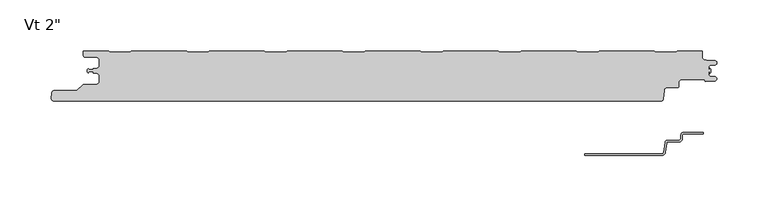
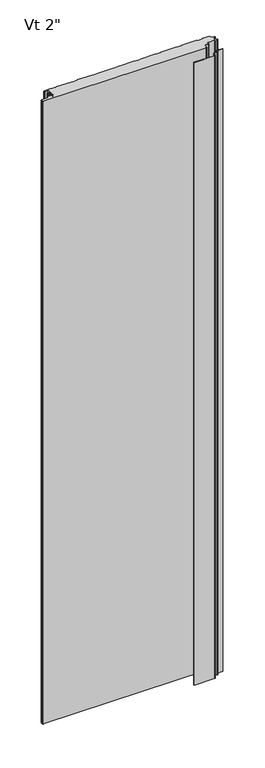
"""IFC4 building model written with IfcOpenShell, lengths in millimetres: plate geometry."""

from ifc_helpers import new_model, si_unit, frame, origin, place, context, project, spatial, polyline, circle_curve, source, transform, mapped, element, save
from ifc_brep_helpers import plane_surface, cylinder_surface, revolved_surface, advanced_brep


def plate_af5c8cf8(model_context):
    return source(origin(), model_context, "Body", "AdvancedBrep", [
        advanced_brep(
        [(278.4543181, -80.5008679, 0.0), (297.1995181, -80.5008679, 0.0), (297.1995181, -82.0248679, 0.0), (278.4543181, -82.0248679, 0.0), (276.9303181, -83.5488679, 0.0), (276.9303181, -86.6476679, 0.0), (273.4759181, -90.1020679, 0.0), (262.2633607, -90.1020679, 0.0), (261.5042604, -90.7976552, 0.0), (260.3094328, -100.3416507, 0.0), (257.2730313, -103.124, 0.0), (181.7057181, -103.1360323, 0.0), (181.7057181, -101.6, 0.0), (257.2730313, -101.6, 0.0), (258.7912321, -100.2088254, 0.0), (259.9860597, -90.6648299, 0.0), (262.2633607, -88.5780679, 0.0), (273.4759181, -88.5780679, 0.0), (275.4063181, -86.6476679, 0.0), (275.4063181, -83.5488679, 0.0), (278.4543181, -80.5008679, 2400.0), (275.4063181, -83.5488679, 2400.0), (275.4063181, -86.6476679, 2400.0), (273.4759181, -88.5780679, 2400.0), (262.2633607, -88.5780679, 2400.0), (259.9860597, -90.6648299, 2400.0), (258.7912321, -100.2088254, 2400.0), (257.2730313, -101.6, 2400.0), (181.7057181, -101.6, 2400.0), (181.7057181, -103.1360323, 2400.0), (257.2730313, -103.1360323, 2400.0), (260.3094328, -100.3416507, 2400.0), (261.5042604, -90.7976552, 2400.0), (262.2633607, -90.1020679, 2400.0), (273.4759181, -90.1020679, 2400.0), (276.9303181, -86.6476679, 2400.0), (276.9303181, -83.5488679, 2400.0), (278.4543181, -82.0248679, 2400.0), (297.1995181, -82.0248679, 2400.0), (297.1995181, -80.5008679, 2400.0)],
        [
            (0, 1),
            (1, 2),
            (2, 3),
            (3, 4, circle_curve(frame((278.4543181, -83.5488679, 0.0), z_axis=(0.0, 0.0, 1.0), x_axis=(0.0, 1.0, 0.0)), 1.524)),
            (4, 5),
            (5, 6, circle_curve(frame((273.4759181, -86.6476679, 0.0), z_axis=(0.0, 0.0, -1.0), x_axis=(0.0, 1.0, 0.0)), 3.4544)),
            (6, 7),
            (7, 8, circle_curve(frame((262.2633607, -90.8640679, 0.0), z_axis=(0.0, 0.0, 1.0), x_axis=(0.0, 1.0, 0.0)), 0.762)),
            (8, 9),
            (9, 10, circle_curve(frame((257.2730313, -100.076, 0.0), z_axis=(0.0, 0.0, -1.0), x_axis=(0.0, 1.0, 0.0)), 3.048)),
            (10, 11),
            (11, 12),
            (12, 13),
            (13, 14, circle_curve(frame((257.2730313, -100.076, 0.0), z_axis=(0.0, 0.0, 1.0), x_axis=(0.0, 1.0, 0.0)), 1.524)),
            (14, 15),
            (15, 16, circle_curve(frame((262.2633607, -90.8640679, 0.0), z_axis=(0.0, 0.0, -1.0), x_axis=(0.0, 1.0, 0.0)), 2.286)),
            (16, 17),
            (17, 18, circle_curve(frame((273.4759181, -86.6476679, 0.0), z_axis=(0.0, 0.0, 1.0), x_axis=(0.0, 1.0, 0.0)), 1.9304)),
            (18, 19),
            (19, 0, circle_curve(frame((278.4543181, -83.5488679, 0.0), z_axis=(0.0, 0.0, -1.0), x_axis=(0.0, 1.0, 0.0)), 3.048)),
            (20, 21, circle_curve(frame((278.4543181, -83.5488679, 2400.0), z_axis=(0.0, 0.0, 1.0), x_axis=(0.0, 1.0, 0.0)), 3.048)),
            (21, 22),
            (22, 23, circle_curve(frame((273.4759181, -86.6476679, 2400.0), z_axis=(0.0, 0.0, -1.0), x_axis=(0.0, 1.0, 0.0)), 1.9304)),
            (23, 24),
            (24, 25, circle_curve(frame((262.2633607, -90.8640679, 2400.0), z_axis=(0.0, 0.0, 1.0), x_axis=(0.0, 1.0, 0.0)), 2.286)),
            (25, 26),
            (26, 27, circle_curve(frame((257.2730313, -100.076, 2400.0), z_axis=(0.0, 0.0, -1.0), x_axis=(0.0, 1.0, 0.0)), 1.524)),
            (27, 28),
            (28, 29),
            (29, 30),
            (30, 31, circle_curve(frame((257.2730313, -100.076, 2400.0), z_axis=(0.0, 0.0, 1.0), x_axis=(0.0, 1.0, 0.0)), 3.048)),
            (31, 32),
            (32, 33, circle_curve(frame((262.2633607, -90.8640679, 2400.0), z_axis=(0.0, 0.0, -1.0), x_axis=(0.0, 1.0, 0.0)), 0.762)),
            (33, 34),
            (34, 35, circle_curve(frame((273.4759181, -86.6476679, 2400.0), z_axis=(0.0, 0.0, 1.0), x_axis=(0.0, 1.0, 0.0)), 3.4544)),
            (35, 36),
            (36, 37, circle_curve(frame((278.4543181, -83.5488679, 2400.0), z_axis=(0.0, 0.0, -1.0), x_axis=(0.0, 1.0, 0.0)), 1.524)),
            (37, 38),
            (38, 39),
            (39, 20),
            (2, 38),
            (37, 3),
            (15, 25),
            (24, 16),
            (7, 33),
            (32, 8),
            (5, 35),
            (34, 6),
            (1, 39),
            (36, 4),
            (9, 31),
            (30, 10),
            (13, 27),
            (26, 14),
            (0, 20),
            (12, 28),
            (29, 11),
            (23, 17),
            (18, 22),
            (21, 19),
        ],
        [
            plane_surface(frame((297.1995181, -101.6, 0.0), z_axis=(0.0, 0.0, -1.0), x_axis=(-1.0, 0.0, 0.0))),
            plane_surface(frame((297.1995181, -101.6, 2400.0), z_axis=(0.0, 0.0, 1.0), x_axis=(-1.0, 0.0, 0.0))),
            plane_surface(frame((278.4543181, -82.0248679, 0.0), z_axis=(0.0, -1.0, 0.0), x_axis=(0.0, 0.0, 1.0))),
            cylinder_surface(frame((262.2633607, -90.8640679, 0.0), z_axis=(0.0, 0.0, -1.0), x_axis=(0.0, 1.0, 0.0)), 2.286),
            revolved_surface(polyline([(262.2633607, -90.1020679, 2400.0), (262.2633607, -90.1020679, 0.0)]), (262.2633607, -90.8640679, 0.0), (0.0, 0.0, 1.0)),
            cylinder_surface(frame((273.4759181, -86.6476679, 0.0), z_axis=(0.0, 0.0, -1.0), x_axis=(0.0, 1.0, 0.0)), 3.4544),
            plane_surface(frame((297.1995181, -82.0248679, 0.0), z_axis=(1.0, 0.0, 0.0), x_axis=(0.0, 0.0, 1.0))),
            revolved_surface(polyline([(278.4543181, -82.0248679, 2400.0), (278.4543181, -82.0248679, 0.0)]), (278.4543181, -83.5488679, 0.0), (0.0, 0.0, 1.0)),
            cylinder_surface(frame((257.2730313, -100.076, 0.0), z_axis=(0.0, 0.0, -1.0), x_axis=(0.0, 1.0, 0.0)), 3.048),
            revolved_surface(polyline([(257.2730313, -98.55199999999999, 2400.0), (257.2730313, -98.55199999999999, 0.0)]), (257.2730313, -100.076, 0.0), (0.0, 0.0, 1.0)),
            plane_surface(frame((297.1995181, -80.5008679, 0.0), z_axis=(0.0, 1.0, 0.0), x_axis=(0.0, 0.0, 1.0))),
            plane_surface(frame((259.9860597, -90.6648299, 0.0), z_axis=(-0.992254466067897, 0.12422187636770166, 0.0), x_axis=(0.0, 0.0, 1.0))),
            plane_surface(frame((257.2730313, -101.6, 0.0), z_axis=(0.0, 1.0, 0.0), x_axis=(0.0, 0.0, 1.0))),
            plane_surface(frame((260.3094328, -100.3416507, 0.0), z_axis=(0.9922544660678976, -0.12422187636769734, 0.0), x_axis=(0.0, 0.0, 1.0))),
            plane_surface(frame((276.9303181, -86.6476679, 0.0), z_axis=(1.0, 0.0, 0.0), x_axis=(0.0, 0.0, 1.0))),
            plane_surface(frame((181.7057181, -103.1360323, 0.0), z_axis=(0.0, -1.0, 0.0), x_axis=(0.0, 0.0, 1.0))),
            plane_surface(frame((181.7057181, -101.6, 0.0), z_axis=(-1.0, 0.0, 0.0), x_axis=(0.0, 0.0, 1.0))),
            plane_surface(frame((273.4759181, -88.5780679, 0.0), z_axis=(0.0, 1.0, 0.0), x_axis=(0.0, 0.0, 1.0))),
            plane_surface(frame((275.4063181, -83.5488679, 0.0), z_axis=(-1.0, 0.0, 0.0), x_axis=(0.0, 0.0, 1.0))),
            plane_surface(frame((262.2633607, -90.1020679, 0.0), z_axis=(0.0, -1.0, 0.0), x_axis=(0.0, 0.0, 1.0))),
            revolved_surface(polyline([(273.4759181, -84.7172679, 2400.0), (273.4759181, -84.7172679, 0.0)]), (273.4759181, -86.6476679, 0.0), (0.0, 0.0, 1.0)),
            cylinder_surface(frame((278.4543181, -83.5488679, 0.0), z_axis=(0.0, 0.0, -1.0), x_axis=(0.0, 1.0, 0.0)), 3.048),
        ],
        [
            (0, [[1, 2, 3, 4, 5, 6, 7, 8, 9, 10, 11, 12, 13, 14, 15, 16, 17, 18, 19, 20]]),
            (1, [[21, 22, 23, 24, 25, 26, 27, 28, 29, 30, 31, 32, 33, 34, 35, 36, 37, 38, 39, 40]]),
            (2, [[41, -38, 42, -3]]),
            (3, [[43, -25, 44, -16]]),
            (4, [[45, -33, 46, -8]]),
            (5, [[47, -35, 48, -6]]),
            (6, [[49, -39, -41, -2]]),
            (7, [[-42, -37, 50, -4]]),
            (8, [[51, -31, 52, -10]]),
            (9, [[53, -27, 54, -14]]),
            (10, [[55, -40, -49, -1]]),
            (11, [[-54, -26, -43, -15]]),
            (12, [[56, -28, -53, -13]]),
            (13, [[-46, -32, -51, -9]]),
            (14, [[-50, -36, -47, -5]]),
            (15, [[-52, -30, 57, -11]]),
            (16, [[-57, -29, -56, -12]]),
            (17, [[-44, -24, 58, -17]]),
            (18, [[59, -22, 60, -19]]),
            (19, [[-48, -34, -45, -7]]),
            (20, [[-58, -23, -59, -18]]),
            (21, [[-60, -21, -55, -20]]),
        ],
    ),
        advanced_brep(
        [(-303.7683001, -22.470875, 2400.0), (-302.5671761, -21.3014003, 2400.0), (-298.8087827, -21.3014003, 2400.0), (-298.8087827, -22.6998791, 2400.0), (-296.1096717, -22.6998791, 2400.0), (-292.7596764, -26.0498744, 2400.0), (-292.7596764, -30.4498656, 2400.0), (-296.1096717, -33.7998609, 2400.0), (-307.9205608, -33.7998609, 2400.0), (-309.1226385, -34.2977778, 2400.0), (-314.6247096, -39.7998489, 2400.0), (-336.7198392, -39.7998489, 2400.0), (-339.3765709, -42.0184509, 2400.0), (-339.8125699, -47.0002718, 2400.0), (-337.2521176, -49.7945967, 2400.0), (256.315622, -49.8, 2400.0), (258.2669057, -48.0149259, 2400.0), (259.021161, -39.5539491, 2400.0), (262.1653654, -36.7906462, 2400.0), (272.2583308, -36.7906462, 2400.0), (273.2097394, -35.8392375, 2400.0), (273.2097394, -32.6955822, 2400.0), (277.2091924, -28.6961293, 2400.0), (298.3895515, -28.6961293, 2400.0), (299.5334028, -30.676977, 2400.0), (308.506811, -30.3217167, 2400.0), (308.5037148, -26.1211391, 2400.0), (304.4977997, -25.8767242, 2400.0), (302.7686884, -24.0819116, 2400.0), (302.7686884, -21.297365, 2400.0), (303.7686884, -21.297365, 2400.0), (303.7686884, -22.884865, 2400.0), (304.8, -21.8535534, 2400.0), (304.8, -18.6247968, 2400.0), (303.7686884, -17.5934852, 2400.0), (303.7686884, -19.0078731, 2400.0), (302.7686884, -19.0078731, 2400.0), (302.7686884, -16.6806905, 2400.0), (304.4513685, -14.9319872, 2400.0), (308.5921924, -14.7123265, 2400.0), (308.5931719, -10.4109885, 2400.0), (300.1016499, -10.0037808, 2400.0), (296.2787013, -6.008945, 2400.0), (296.2787013, -1.0063443, 2400.0), (271.7789439, -1.0063443, 2400.0), (270.3933109, -2.206575, 2400.0), (251.0181446, -2.206575, 2400.0), (249.6325117, -1.0063443, 2400.0), (195.5790963, -1.0063443, 2400.0), (194.1934633, -2.206575, 2400.0), (174.818297, -2.206575, 2400.0), (173.4326641, -1.0063443, 2400.0), (119.3792487, -1.0063443, 2400.0), (117.9936157, -2.206575, 2400.0), (98.6184494, -2.206575, 2400.0), (97.2328165, -1.0063443, 2400.0), (43.1794011, -1.0063443, 2400.0), (41.7937681, -2.206575, 2400.0), (22.4186018, -2.206575, 2400.0), (21.0329689, -1.0063443, 2400.0), (-33.0204465, -1.0063443, 2400.0), (-34.4060795, -2.206575, 2400.0), (-53.7812458, -2.206575, 2400.0), (-55.1668787, -1.0063443, 2400.0), (-109.2202941, -1.0063443, 2400.0), (-110.6059271, -2.206575, 2400.0), (-129.9810934, -2.206575, 2400.0), (-131.3667263, -1.0063443, 2400.0), (-185.4201417, -1.0063443, 2400.0), (-186.8057747, -2.206575, 2400.0), (-206.180941, -2.206575, 2400.0), (-207.5665739, -1.0063443, 2400.0), (-261.6199893, -1.0063443, 2400.0), (-263.0056223, -2.206575, 2400.0), (-282.3807886, -2.206575, 2400.0), (-283.7664215, -1.0063443, 2400.0), (-308.2662506, -1.0063443, 2400.0), (-308.2662506, -5.2378832, 2400.0), (-306.4962564, -7.0078774, 2400.0), (-296.0762778, -7.0078774, 2400.0), (-292.776282, -10.3078733, 2400.0), (-292.776282, -14.7078645, 2400.0), (-296.0762777, -18.0078602, 2400.0), (-298.7684875, -18.0078602, 2400.0), (-298.7684875, -19.0078547, 2400.0), (-302.7686911, -19.0078547, 2400.0), (-303.7686883, -18.0078635, 2400.0), (-304.8, -19.0391752, 2400.0), (-304.8, -21.4391751, 2400.0), (-303.7683001, -22.470875, 0.0), (-304.8, -21.4391751, 0.0), (-304.8, -19.0391752, 0.0), (-303.7686883, -18.0078635, 0.0), (-302.7686911, -19.0078547, 0.0), (-298.7684875, -19.0078547, 0.0), (-298.7684875, -18.0078602, 0.0), (-296.0762777, -18.0078602, 0.0), (-292.776282, -14.7078645, 0.0), (-292.776282, -10.3078733, 0.0), (-296.0762778, -7.0078774, 0.0), (-306.4962564, -7.0078774, 0.0), (-308.2662506, -5.2378832, 0.0), (-308.2662506, -1.0063443, 0.0), (-283.7664215, -1.0063443, 0.0), (-282.3807886, -2.206575, 0.0), (-263.0056223, -2.206575, 0.0), (-261.6199893, -1.0063443, 0.0), (-207.5665739, -1.0063443, 0.0), (-206.180941, -2.206575, 0.0), (-186.8057747, -2.206575, 0.0), (-185.4201417, -1.0063443, 0.0), (-131.3667263, -1.0063443, 0.0), (-129.9810934, -2.206575, 0.0), (-110.6059271, -2.206575, 0.0), (-109.2202941, -1.0063443, 0.0), (-55.1668787, -1.0063443, 0.0), (-53.7812458, -2.206575, 0.0), (-34.4060795, -2.206575, 0.0), (-33.0204465, -1.0063443, 0.0), (21.0329689, -1.0063443, 0.0), (22.4186018, -2.206575, 0.0), (41.7937681, -2.206575, 0.0), (43.1794011, -1.0063443, 0.0), (97.2328165, -1.0063443, 0.0), (98.6184494, -2.206575, 0.0), (117.9936157, -2.206575, 0.0), (119.3792487, -1.0063443, 0.0), (173.4326641, -1.0063443, 0.0), (174.818297, -2.206575, 0.0), (194.1934633, -2.206575, 0.0), (195.5790963, -1.0063443, 0.0), (249.6325117, -1.0063443, 0.0), (251.0181446, -2.206575, 0.0), (270.3933109, -2.206575, 0.0), (271.7789439, -1.0063443, 0.0), (296.2787013, -1.0063443, 0.0), (296.2787013, -6.008945, 0.0), (300.1016499, -10.0037808, 0.0), (308.5931719, -10.4109885, 0.0), (308.5921924, -14.7123265, 0.0), (304.4513685, -14.9319872, 0.0), (302.7686884, -16.6806905, 0.0), (302.7686884, -19.0078731, 0.0), (303.7686884, -19.0078731, 0.0), (303.7686884, -17.5934852, 0.0), (304.8, -18.6247968, 0.0), (304.8, -21.8535534, 0.0), (303.7686884, -22.884865, 0.0), (303.7686884, -21.297365, 0.0), (302.7686884, -21.297365, 0.0), (302.7686884, -24.0819116, 0.0), (304.4977997, -25.8767242, 0.0), (308.5037148, -26.1211391, 0.0), (308.506811, -30.3217167, 0.0), (299.5334028, -30.676977, 0.0), (298.3895515, -28.6961293, 0.0), (277.2091924, -28.6961293, 0.0), (273.2097394, -32.6955822, 0.0), (273.2097394, -35.8392375, 0.0), (272.2583308, -36.7906462, 0.0), (262.1653654, -36.7906462, 0.0), (259.021161, -39.5539491, 0.0), (258.2669057, -48.0149259, 0.0), (256.315622, -49.8, 0.0), (-337.2521176, -49.8, 0.0), (-339.8125699, -47.0002718, 0.0), (-339.3765709, -42.0184509, 0.0), (-336.7198392, -39.7998489, 0.0), (-314.6247096, -39.7998489, 0.0), (-309.1226385, -34.2977778, 0.0), (-307.9205608, -33.7998609, 0.0), (-296.1096717, -33.7998609, 0.0), (-292.7596764, -30.4498656, 0.0), (-292.7596764, -26.0498744, 0.0), (-296.1096717, -22.6998791, 0.0), (-298.8087827, -22.6998791, 0.0), (-298.8087827, -21.3014003, 0.0), (-302.5671761, -21.3014003, 0.0)],
        [
            (0, 1, circle_curve(frame((-302.5686908, -22.5013969, 2400.0), z_axis=(0.0, 0.0, -1.0), x_axis=(-1.0, 0.0, 0.0)), 1.1999976)),
            (1, 2),
            (2, 3),
            (3, 4),
            (4, 5, circle_curve(frame((-296.1096717, -26.0498744, 2400.0), z_axis=(0.0, 0.0, -1.0), x_axis=(-1.0, 0.0, 0.0)), 3.3499953)),
            (5, 6),
            (6, 7, circle_curve(frame((-296.1096717, -30.4498656, 2400.0), z_axis=(0.0, 0.0, -1.0), x_axis=(-1.0, 0.0, 0.0)), 3.3499953)),
            (7, 8),
            (8, 9, circle_curve(frame((-307.9205608, -35.4998555, 2400.0), z_axis=(0.0, 0.0, 1.0), x_axis=(-1.0, 0.0, 0.0)), 1.6999946)),
            (9, 10),
            (10, 11),
            (11, 12, circle_curve(frame((-336.7198392, -42.4998415, 2400.0), z_axis=(0.0, 0.0, 1.0), x_axis=(-1.0, 0.0, 0.0)), 2.6999926)),
            (12, 13),
            (13, 14, circle_curve(frame((-337.2521176, -47.2243575, 2400.0), z_axis=(0.0, 0.0, 1.0), x_axis=(-1.0, 0.0, 0.0)), 2.5702393)),
            (14, 15),
            (15, 16, circle_curve(frame((256.315622, -47.8409784, 2400.0), z_axis=(0.0, 0.0, 1.0), x_axis=(-1.0, 0.0, 0.0)), 1.9590216)),
            (16, 17),
            (17, 18, circle_curve(frame((262.0396267, -39.8180321, 2400.0), z_axis=(0.0, 0.0, -1.0), x_axis=(-1.0, 0.0, 0.0)), 3.0299959)),
            (18, 19),
            (19, 20, circle_curve(frame((272.2583308, -35.8392375, 2400.0), z_axis=(0.0, 0.0, 1.0), x_axis=(-1.0, 0.0, 0.0)), 0.9514087)),
            (20, 21),
            (21, 22, circle_curve(frame((277.2091924, -32.6955822, 2400.0), z_axis=(0.0, 0.0, -1.0), x_axis=(-1.0, 0.0, 0.0)), 3.9994529)),
            (22, 23),
            (23, 24),
            (24, 25),
            (25, 26, circle_curve(frame((308.4236622, -28.2214881, 2400.0), z_axis=(0.0, 0.0, 1.0), x_axis=(-1.0, 0.0, 0.0)), 2.1018739)),
            (26, 27),
            (27, 28, circle_curve(frame((304.6099653, -24.0383506, 2400.0), z_axis=(0.0, 0.0, -1.0), x_axis=(-1.0, 0.0, 0.0)), 1.8417922)),
            (28, 29),
            (29, 30),
            (30, 31),
            (31, 32),
            (32, 33),
            (33, 34),
            (34, 35),
            (35, 36),
            (36, 37),
            (37, 38, circle_curve(frame((304.5186869, -16.6806905, 2400.0), z_axis=(0.0, 0.0, -1.0), x_axis=(-1.0, 0.0, 0.0)), 1.7499985)),
            (38, 39),
            (39, 40, circle_curve(frame((308.4781032, -12.5616314, 2400.0), z_axis=(0.0, 0.0, 1.0), x_axis=(-1.0, 0.0, 0.0)), 2.153719)),
            (40, 41),
            (41, 42, circle_curve(frame((300.2939817, -5.9930781, 2400.0), z_axis=(0.0, 0.0, -1.0), x_axis=(-1.0, 0.0, 0.0)), 4.0153117)),
            (42, 43),
            (43, 44),
            (44, 45),
            (45, 46),
            (46, 47),
            (47, 48),
            (48, 49),
            (49, 50),
            (50, 51),
            (51, 52),
            (52, 53),
            (53, 54),
            (54, 55),
            (55, 56),
            (56, 57),
            (57, 58),
            (58, 59),
            (59, 60),
            (60, 61),
            (61, 62),
            (62, 63),
            (63, 64),
            (64, 65),
            (65, 66),
            (66, 67),
            (67, 68),
            (68, 69),
            (69, 70),
            (70, 71),
            (71, 72),
            (72, 73),
            (73, 74),
            (74, 75),
            (75, 76),
            (76, 77),
            (77, 78, circle_curve(frame((-306.4962564, -5.2378832, 2400.0), z_axis=(0.0, 0.0, 1.0), x_axis=(-1.0, 0.0, 0.0)), 1.7699942)),
            (78, 79),
            (79, 80, circle_curve(frame((-296.0762778, -10.3078733, 2400.0), z_axis=(0.0, 0.0, -1.0), x_axis=(-1.0, 0.0, 0.0)), 3.2999959)),
            (80, 81),
            (81, 82, circle_curve(frame((-296.0762777, -14.7078645, 2400.0), z_axis=(0.0, 0.0, -1.0), x_axis=(-1.0, 0.0, 0.0)), 3.2999957)),
            (82, 83),
            (83, 84),
            (84, 85),
            (85, 86, circle_curve(frame((-302.7686911, -18.0078576, 2400.0), z_axis=(0.0, 0.0, -1.0), x_axis=(-1.0, 0.0, 0.0)), 0.9999972)),
            (86, 87),
            (87, 88),
            (88, 0),
            (89, 90),
            (90, 91),
            (91, 92),
            (92, 93, circle_curve(frame((-302.7686911, -18.0078576, 0.0), z_axis=(0.0, 0.0, 1.0), x_axis=(-1.0, 0.0, 0.0)), 0.9999972)),
            (93, 94),
            (94, 95),
            (95, 96),
            (96, 97, circle_curve(frame((-296.0762777, -14.7078645, 0.0), z_axis=(0.0, 0.0, 1.0), x_axis=(-1.0, 0.0, 0.0)), 3.2999957)),
            (97, 98),
            (98, 99, circle_curve(frame((-296.0762778, -10.3078733, 0.0), z_axis=(0.0, 0.0, 1.0), x_axis=(-1.0, 0.0, 0.0)), 3.2999959)),
            (99, 100),
            (100, 101, circle_curve(frame((-306.4962564, -5.2378832, 0.0), z_axis=(0.0, 0.0, -1.0), x_axis=(-1.0, 0.0, 0.0)), 1.7699942)),
            (101, 102),
            (102, 103),
            (103, 104),
            (104, 105),
            (105, 106),
            (106, 107),
            (107, 108),
            (108, 109),
            (109, 110),
            (110, 111),
            (111, 112),
            (112, 113),
            (113, 114),
            (114, 115),
            (115, 116),
            (116, 117),
            (117, 118),
            (118, 119),
            (119, 120),
            (120, 121),
            (121, 122),
            (122, 123),
            (123, 124),
            (124, 125),
            (125, 126),
            (126, 127),
            (127, 128),
            (128, 129),
            (129, 130),
            (130, 131),
            (131, 132),
            (132, 133),
            (133, 134),
            (134, 135),
            (135, 136),
            (136, 137, circle_curve(frame((300.2939817, -5.9930781, 0.0), z_axis=(0.0, 0.0, 1.0), x_axis=(-1.0, 0.0, 0.0)), 4.0153117)),
            (137, 138),
            (138, 139, circle_curve(frame((308.4781032, -12.5616314, 0.0), z_axis=(0.0, 0.0, -1.0), x_axis=(-1.0, 0.0, 0.0)), 2.153719)),
            (139, 140),
            (140, 141, circle_curve(frame((304.5186869, -16.6806905, 0.0), z_axis=(0.0, 0.0, 1.0), x_axis=(-1.0, 0.0, 0.0)), 1.7499985)),
            (141, 142),
            (142, 143),
            (143, 144),
            (144, 145),
            (145, 146),
            (146, 147),
            (147, 148),
            (148, 149),
            (149, 150),
            (150, 151, circle_curve(frame((304.6099653, -24.0383506, 0.0), z_axis=(0.0, 0.0, 1.0), x_axis=(-1.0, 0.0, 0.0)), 1.8417922)),
            (151, 152),
            (152, 153, circle_curve(frame((308.4236622, -28.2214881, 0.0), z_axis=(0.0, 0.0, -1.0), x_axis=(-1.0, 0.0, 0.0)), 2.1018739)),
            (153, 154),
            (154, 155),
            (155, 156),
            (156, 157, circle_curve(frame((277.2091924, -32.6955822, 0.0), z_axis=(0.0, 0.0, 1.0), x_axis=(-1.0, 0.0, 0.0)), 3.9994529)),
            (157, 158),
            (158, 159, circle_curve(frame((272.2583308, -35.8392375, 0.0), z_axis=(0.0, 0.0, -1.0), x_axis=(-1.0, 0.0, 0.0)), 0.9514087)),
            (159, 160),
            (160, 161, circle_curve(frame((262.0396267, -39.8180321, 0.0), z_axis=(0.0, 0.0, 1.0), x_axis=(-1.0, 0.0, 0.0)), 3.0299959)),
            (161, 162),
            (162, 163, circle_curve(frame((256.315622, -47.8409784, 0.0), z_axis=(0.0, 0.0, -1.0), x_axis=(-1.0, 0.0, 0.0)), 1.9590216)),
            (163, 164),
            (164, 165, circle_curve(frame((-337.2521176, -47.2243575, 0.0), z_axis=(0.0, 0.0, -1.0), x_axis=(-1.0, 0.0, 0.0)), 2.5702393)),
            (165, 166),
            (166, 167, circle_curve(frame((-336.7198392, -42.4998415, 0.0), z_axis=(0.0, 0.0, -1.0), x_axis=(-1.0, 0.0, 0.0)), 2.6999926)),
            (167, 168),
            (168, 169),
            (169, 170, circle_curve(frame((-307.9205608, -35.4998555, 0.0), z_axis=(0.0, 0.0, -1.0), x_axis=(-1.0, 0.0, 0.0)), 1.6999946)),
            (170, 171),
            (171, 172, circle_curve(frame((-296.1096717, -30.4498656, 0.0), z_axis=(0.0, 0.0, 1.0), x_axis=(-1.0, 0.0, 0.0)), 3.3499953)),
            (172, 173),
            (173, 174, circle_curve(frame((-296.1096717, -26.0498744, 0.0), z_axis=(0.0, 0.0, 1.0), x_axis=(-1.0, 0.0, 0.0)), 3.3499953)),
            (174, 175),
            (175, 176),
            (176, 177),
            (177, 89, circle_curve(frame((-302.5686908, -22.5013969, 0.0), z_axis=(0.0, 0.0, 1.0), x_axis=(-1.0, 0.0, 0.0)), 1.1999976)),
            (88, 90),
            (89, 0),
            (87, 91),
            (86, 92),
            (85, 93),
            (84, 94),
            (83, 95),
            (82, 96),
            (81, 97),
            (80, 98),
            (79, 99),
            (78, 100),
            (77, 101),
            (76, 102),
            (42, 136),
            (135, 43),
            (41, 137),
            (40, 138),
            (39, 139),
            (38, 140),
            (37, 141),
            (36, 142),
            (35, 143),
            (34, 144),
            (33, 145),
            (32, 146),
            (31, 147),
            (30, 148),
            (29, 149),
            (28, 150),
            (27, 151),
            (26, 152),
            (25, 153),
            (24, 154),
            (23, 155),
            (22, 156),
            (21, 157),
            (20, 158),
            (19, 159),
            (18, 160),
            (17, 161),
            (16, 162),
            (15, 163),
            (14, 164),
            (13, 165),
            (12, 166),
            (11, 167),
            (10, 168),
            (9, 169),
            (8, 170),
            (7, 171),
            (6, 172),
            (5, 173),
            (4, 174),
            (3, 175),
            (2, 176),
            (1, 177),
            (75, 103),
            (74, 104),
            (73, 105),
            (72, 106),
            (71, 107),
            (70, 108),
            (69, 109),
            (68, 110),
            (67, 111),
            (66, 112),
            (65, 113),
            (64, 114),
            (63, 115),
            (62, 116),
            (61, 117),
            (60, 118),
            (59, 119),
            (58, 120),
            (57, 121),
            (56, 122),
            (55, 123),
            (54, 124),
            (53, 125),
            (52, 126),
            (51, 127),
            (50, 128),
            (49, 129),
            (48, 130),
            (47, 131),
            (46, 132),
            (45, 133),
            (44, 134),
        ],
        [
            plane_surface(frame((0.0, -49.8, 2400.0), z_axis=(0.0, 0.0, 1.0), x_axis=(0.0, -1.0, 0.0))),
            plane_surface(frame((0.0, -49.8, 0.0), z_axis=(0.0, 0.0, -1.0), x_axis=(0.0, -1.0, 0.0))),
            plane_surface(frame((-303.7683001, -22.470875, 2400.0), z_axis=(-0.707106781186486, -0.7071067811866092, 0.0), x_axis=(0.0, 0.0, -1.0))),
            plane_surface(frame((-304.8, -21.4391751, 2400.0), z_axis=(-1.0, 0.0, 0.0), x_axis=(0.0, 0.0, -1.0))),
            plane_surface(frame((-304.8, -19.0391752, 2400.0), z_axis=(-0.7071067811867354, 0.7071067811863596, 0.0), x_axis=(0.0, 0.0, -1.0))),
            revolved_surface(polyline([(-303.7686883, -18.0078576, 0.0), (-303.7686883, -18.0078576, 2400.0)]), (-302.7686911, -18.0078576, 2400.0), (0.0, 0.0, -1.0)),
            plane_surface(frame((-302.7686911, -19.0078547, 2400.0), z_axis=(0.0, 1.0, 0.0), x_axis=(0.0, 0.0, -1.0))),
            plane_surface(frame((-298.7684875, -19.0078547, 2400.0), z_axis=(-1.0, 0.0, 0.0), x_axis=(0.0, 0.0, -1.0))),
            plane_surface(frame((-298.7684875, -18.0078602, 2400.0), z_axis=(0.0, 1.0, 0.0), x_axis=(0.0, 0.0, -1.0))),
            revolved_surface(polyline([(-299.3762734, -14.7078645, 0.0), (-299.3762734, -14.7078645, 2400.0)]), (-296.0762777, -14.7078645, 2400.0), (0.0, 0.0, -1.0)),
            plane_surface(frame((-292.776282, -14.7078645, 2400.0), z_axis=(-1.0, 0.0, 0.0), x_axis=(0.0, 0.0, -1.0))),
            revolved_surface(polyline([(-299.3762737, -10.3078733, 0.0), (-299.3762737, -10.3078733, 2400.0)]), (-296.0762778, -10.3078733, 2400.0), (0.0, 0.0, -1.0)),
            plane_surface(frame((-296.0762778, -7.0078774, 2400.0), z_axis=(0.0, -1.0, 0.0), x_axis=(0.0, 0.0, -1.0))),
            cylinder_surface(frame((-306.4962564, -5.2378832, 2400.0), z_axis=(0.0, 0.0, 1.0), x_axis=(-1.0, 0.0, 0.0)), 1.7699942),
            plane_surface(frame((-308.2662506, -5.2378832, 2400.0), z_axis=(-1.0, 0.0, 0.0), x_axis=(0.0, 0.0, -1.0))),
            plane_surface(frame((296.2787013, -1.0063443, 2400.0), z_axis=(1.0, 0.0, 0.0), x_axis=(0.0, 0.0, -1.0))),
            revolved_surface(polyline([(296.27867000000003, -5.9930781, 0.0), (296.27867000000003, -5.9930781, 2400.0)]), (300.2939817, -5.9930781, 2400.0), (0.0, 0.0, -1.0)),
            plane_surface(frame((300.1016499, -10.0037808, 2400.0), z_axis=(0.047899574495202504, 0.9988521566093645, 0.0), x_axis=(0.0, 0.0, -1.0))),
            cylinder_surface(frame((308.4781032, -12.5616314, 2400.0), z_axis=(0.0, 0.0, 1.0), x_axis=(-1.0, 0.0, 0.0)), 2.153719),
            plane_surface(frame((308.5921924, -14.7123265, 2400.0), z_axis=(0.05297310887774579, -0.9985959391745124, 0.0), x_axis=(0.0, 0.0, -1.0))),
            revolved_surface(polyline([(302.7686884, -16.6806905, 0.0), (302.7686884, -16.6806905, 2400.0)]), (304.5186869, -16.6806905, 2400.0), (0.0, 0.0, -1.0)),
            plane_surface(frame((302.7686884, -16.6806905, 2400.0), z_axis=(1.0, 0.0, 0.0), x_axis=(0.0, 0.0, -1.0))),
            plane_surface(frame((302.7686884, -19.0078731, 2400.0), z_axis=(0.0, 1.0, 0.0), x_axis=(0.0, 0.0, -1.0))),
            plane_surface(frame((303.7686884, -19.0078731, 2400.0), z_axis=(-1.0, 0.0, 0.0), x_axis=(0.0, 0.0, -1.0))),
            plane_surface(frame((303.7686884, -17.5934852, 2400.0), z_axis=(0.7071067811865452, 0.7071067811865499, 0.0), x_axis=(0.0, 0.0, -1.0))),
            plane_surface(frame((304.8, -18.6247968, 2400.0), z_axis=(1.0, 0.0, 0.0), x_axis=(0.0, 0.0, -1.0))),
            plane_surface(frame((304.8, -21.8535534, 2400.0), z_axis=(0.7071067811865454, -0.7071067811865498, 0.0), x_axis=(0.0, 0.0, -1.0))),
            plane_surface(frame((303.7686884, -22.884865, 2400.0), z_axis=(-1.0, 0.0, 0.0), x_axis=(0.0, 0.0, -1.0))),
            plane_surface(frame((303.7686884, -21.297365, 2400.0), z_axis=(0.0, -1.0, 0.0), x_axis=(0.0, 0.0, -1.0))),
            plane_surface(frame((302.7686884, -21.297365, 2400.0), z_axis=(1.0, 0.0, 0.0), x_axis=(0.0, 0.0, -1.0))),
            revolved_surface(polyline([(302.7681731, -24.0383506, 0.0), (302.7681731, -24.0383506, 2400.0)]), (304.6099653, -24.0383506, 2400.0), (0.0, 0.0, -1.0)),
            plane_surface(frame((304.4977997, -25.8767242, 2400.0), z_axis=(0.060900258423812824, 0.9981438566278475, 0.0), x_axis=(0.0, 0.0, -1.0))),
            cylinder_surface(frame((308.4236622, -28.2214881, 2400.0), z_axis=(0.0, 0.0, 1.0), x_axis=(-1.0, 0.0, 0.0)), 2.1018739),
            plane_surface(frame((308.506811, -30.3217167, 2400.0), z_axis=(0.039559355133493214, -0.9992172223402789, 0.0), x_axis=(0.0, 0.0, -1.0))),
            plane_surface(frame((299.5334028, -30.676977, 2400.0), z_axis=(-0.8659859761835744, -0.5000682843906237, 0.0), x_axis=(0.0, 0.0, -1.0))),
            plane_surface(frame((298.3895515, -28.6961293, 2400.0), z_axis=(0.0, -1.0, 0.0), x_axis=(0.0, 0.0, -1.0))),
            revolved_surface(polyline([(273.2097395, -32.6955822, 0.0), (273.2097395, -32.6955822, 2400.0)]), (277.2091924, -32.6955822, 2400.0), (0.0, 0.0, -1.0)),
            plane_surface(frame((273.2097394, -32.6955822, 2400.0), z_axis=(1.0, 0.0, 0.0), x_axis=(0.0, 0.0, -1.0))),
            cylinder_surface(frame((272.2583308, -35.8392375, 2400.0), z_axis=(0.0, 0.0, 1.0), x_axis=(-1.0, 0.0, 0.0)), 0.9514087),
            plane_surface(frame((272.2583308, -36.7906462, 2400.0), z_axis=(0.0, -1.0, 0.0), x_axis=(0.0, 0.0, -1.0))),
            revolved_surface(polyline([(259.00963079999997, -39.8180321, 0.0), (259.00963079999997, -39.8180321, 2400.0)]), (262.0396267, -39.8180321, 2400.0), (0.0, 0.0, -1.0)),
            plane_surface(frame((259.021161, -39.5539491, 2400.0), z_axis=(0.9960500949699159, -0.08879306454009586, 0.0), x_axis=(0.0, 0.0, -1.0))),
            cylinder_surface(frame((256.315622, -47.8409784, 2400.0), z_axis=(0.0, 0.0, 1.0), x_axis=(-1.0, 0.0, 0.0)), 1.9590216),
            plane_surface(frame((256.315622, -49.8, 2400.0), z_axis=(0.0, -1.0, 0.0), x_axis=(0.0, 0.0, -1.0))),
            cylinder_surface(frame((-337.2521176, -47.2243575, 2400.0), z_axis=(0.0, 0.0, 1.0), x_axis=(-1.0, 0.0, 0.0)), 2.5702393),
            plane_surface(frame((-339.8125699, -47.0002718, 2400.0), z_axis=(-0.9961921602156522, 0.0871847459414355, 0.0), x_axis=(0.0, 0.0, -1.0))),
            cylinder_surface(frame((-336.7198392, -42.4998415, 2400.0), z_axis=(0.0, 0.0, 1.0), x_axis=(-1.0, 0.0, 0.0)), 2.6999926),
            plane_surface(frame((-336.7198392, -39.7998489, 2400.0), z_axis=(0.0, 1.0, 0.0), x_axis=(0.0, 0.0, -1.0))),
            plane_surface(frame((-314.6247096, -39.7998489, 2400.0), z_axis=(-0.7071067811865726, 0.7071067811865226, 0.0), x_axis=(0.0, 0.0, -1.0))),
            cylinder_surface(frame((-307.9205608, -35.4998555, 2400.0), z_axis=(0.0, 0.0, 1.0), x_axis=(-1.0, 0.0, 0.0)), 1.6999946),
            plane_surface(frame((-307.9205608, -33.7998609, 2400.0), z_axis=(0.0, 1.0, 0.0), x_axis=(0.0, 0.0, -1.0))),
            revolved_surface(polyline([(-299.45966699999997, -30.4498656, 0.0), (-299.45966699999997, -30.4498656, 2400.0)]), (-296.1096717, -30.4498656, 2400.0), (0.0, 0.0, -1.0)),
            plane_surface(frame((-292.7596764, -30.4498656, 2400.0), z_axis=(-1.0, 0.0, 0.0), x_axis=(0.0, 0.0, -1.0))),
            revolved_surface(polyline([(-299.45966699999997, -26.0498744, 0.0), (-299.45966699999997, -26.0498744, 2400.0)]), (-296.1096717, -26.0498744, 2400.0), (0.0, 0.0, -1.0)),
            plane_surface(frame((-296.1096717, -22.6998791, 2400.0), z_axis=(0.0, -1.0, 0.0), x_axis=(0.0, 0.0, -1.0))),
            plane_surface(frame((-298.8087827, -22.6998791, 2400.0), z_axis=(-1.0, 0.0, 0.0), x_axis=(0.0, 0.0, -1.0))),
            plane_surface(frame((-298.8087827, -21.3014003, 2400.0), z_axis=(0.0, -1.0, 0.0), x_axis=(0.0, 0.0, -1.0))),
            revolved_surface(polyline([(-303.76868840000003, -22.5013969, 0.0), (-303.76868840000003, -22.5013969, 2400.0)]), (-302.5686908, -22.5013969, 2400.0), (0.0, 0.0, -1.0)),
            plane_surface(frame((-308.2662506, -1.0063443, 2400.0), z_axis=(0.0, 1.0, 0.0), x_axis=(0.0, 0.0, -1.0))),
            plane_surface(frame((-283.7664215, -1.0063443, 2400.0), z_axis=(0.6547276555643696, 0.7558648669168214, 0.0), x_axis=(0.0, 0.0, -1.0))),
            plane_surface(frame((-282.3807886, -2.206575, 2400.0), z_axis=(0.0, 1.0, 0.0), x_axis=(0.0, 0.0, -1.0))),
            plane_surface(frame((-263.0056223, -2.206575, 2400.0), z_axis=(-0.6547276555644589, 0.7558648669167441, 0.0), x_axis=(0.0, 0.0, -1.0))),
            plane_surface(frame((-261.6199893, -1.0063443, 2400.0), z_axis=(0.0, 1.0, 0.0), x_axis=(0.0, 0.0, -1.0))),
            plane_surface(frame((-207.5665739, -1.0063443, 2400.0), z_axis=(0.654727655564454, 0.7558648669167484, 0.0), x_axis=(0.0, 0.0, -1.0))),
            plane_surface(frame((-206.180941, -2.206575, 2400.0), z_axis=(0.0, 1.0, 0.0), x_axis=(0.0, 0.0, -1.0))),
            plane_surface(frame((-186.8057747, -2.206575, 2400.0), z_axis=(-0.6547276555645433, 0.7558648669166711, 0.0), x_axis=(0.0, 0.0, -1.0))),
            plane_surface(frame((-185.4201417, -1.0063443, 2400.0), z_axis=(0.0, 1.0, 0.0), x_axis=(0.0, 0.0, -1.0))),
            plane_surface(frame((-131.3667263, -1.0063443, 2400.0), z_axis=(0.6547276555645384, 0.7558648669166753, 0.0), x_axis=(0.0, 0.0, -1.0))),
            plane_surface(frame((-129.9810934, -2.206575, 2400.0), z_axis=(0.0, 1.0, 0.0), x_axis=(0.0, 0.0, -1.0))),
            plane_surface(frame((-110.6059271, -2.206575, 2400.0), z_axis=(-0.654727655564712, 0.755864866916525, 0.0), x_axis=(0.0, 0.0, -1.0))),
            plane_surface(frame((-109.2202941, -1.0063443, 2400.0), z_axis=(0.0, 1.0, 0.0), x_axis=(0.0, 0.0, -1.0))),
            plane_surface(frame((-55.1668787, -1.0063443, 2400.0), z_axis=(0.6547276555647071, 0.7558648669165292, 0.0), x_axis=(0.0, 0.0, -1.0))),
            plane_surface(frame((-53.7812458, -2.206575, 2400.0), z_axis=(0.0, 1.0, 0.0), x_axis=(0.0, 0.0, -1.0))),
            plane_surface(frame((-34.4060795, -2.206575, 2400.0), z_axis=(-0.654727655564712, 0.755864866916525, 0.0), x_axis=(0.0, 0.0, -1.0))),
            plane_surface(frame((-33.0204465, -1.0063443, 2400.0), z_axis=(0.0, 1.0, 0.0), x_axis=(0.0, 0.0, -1.0))),
            plane_surface(frame((21.0329689, -1.0063443, 2400.0), z_axis=(0.6547276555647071, 0.7558648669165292, 0.0), x_axis=(0.0, 0.0, -1.0))),
            plane_surface(frame((22.4186018, -2.206575, 2400.0), z_axis=(0.0, 1.0, 0.0), x_axis=(0.0, 0.0, -1.0))),
            plane_surface(frame((41.7937681, -2.206575, 2400.0), z_axis=(-0.6547276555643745, 0.7558648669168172, 0.0), x_axis=(0.0, 0.0, -1.0))),
            plane_surface(frame((43.1794011, -1.0063443, 2400.0), z_axis=(0.0, 1.0, 0.0), x_axis=(0.0, 0.0, -1.0))),
            plane_surface(frame((97.2328165, -1.0063443, 2400.0), z_axis=(0.6547276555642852, 0.7558648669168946, 0.0), x_axis=(0.0, 0.0, -1.0))),
            plane_surface(frame((98.6184494, -2.206575, 2400.0), z_axis=(0.0, 1.0, 0.0), x_axis=(0.0, 0.0, -1.0))),
            plane_surface(frame((117.9936157, -2.206575, 2400.0), z_axis=(-0.6547276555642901, 0.7558648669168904, 0.0), x_axis=(0.0, 0.0, -1.0))),
            plane_surface(frame((119.3792487, -1.0063443, 2400.0), z_axis=(0.0, 1.0, 0.0), x_axis=(0.0, 0.0, -1.0))),
            plane_surface(frame((173.4326641, -1.0063443, 2400.0), z_axis=(0.6547276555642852, 0.7558648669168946, 0.0), x_axis=(0.0, 0.0, -1.0))),
            plane_surface(frame((174.818297, -2.206575, 2400.0), z_axis=(0.0, 1.0, 0.0), x_axis=(0.0, 0.0, -1.0))),
            plane_surface(frame((194.1934633, -2.206575, 2400.0), z_axis=(-0.6547276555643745, 0.7558648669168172, 0.0), x_axis=(0.0, 0.0, -1.0))),
            plane_surface(frame((195.5790963, -1.0063443, 2400.0), z_axis=(0.0, 1.0, 0.0), x_axis=(0.0, 0.0, -1.0))),
            plane_surface(frame((249.6325117, -1.0063443, 2400.0), z_axis=(0.6547276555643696, 0.7558648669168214, 0.0), x_axis=(0.0, 0.0, -1.0))),
            plane_surface(frame((251.0181446, -2.206575, 2400.0), z_axis=(0.0, 1.0, 0.0), x_axis=(0.0, 0.0, -1.0))),
            plane_surface(frame((270.3933109, -2.206575, 2400.0), z_axis=(-0.6547276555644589, 0.7558648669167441, 0.0), x_axis=(0.0, 0.0, -1.0))),
            plane_surface(frame((271.7789439, -1.0063443, 2400.0), z_axis=(0.0, 1.0, 0.0), x_axis=(0.0, 0.0, -1.0))),
        ],
        [
            (0, [[1, 2, 3, 4, 5, 6, 7, 8, 9, 10, 11, 12, 13, 14, 15, 16, 17, 18, 19, 20, 21, 22, 23, 24, 25, 26, 27, 28, 29, 30, 31, 32, 33, 34, 35, 36, 37, 38, 39, 40, 41, 42, 43, 44, 45, 46, 47, 48, 49, 50, 51, 52, 53, 54, 55, 56, 57, 58, 59, 60, 61, 62, 63, 64, 65, 66, 67, 68, 69, 70, 71, 72, 73, 74, 75, 76, 77, 78, 79, 80, 81, 82, 83, 84, 85, 86, 87, 88, 89]]),
            (1, [[90, 91, 92, 93, 94, 95, 96, 97, 98, 99, 100, 101, 102, 103, 104, 105, 106, 107, 108, 109, 110, 111, 112, 113, 114, 115, 116, 117, 118, 119, 120, 121, 122, 123, 124, 125, 126, 127, 128, 129, 130, 131, 132, 133, 134, 135, 136, 137, 138, 139, 140, 141, 142, 143, 144, 145, 146, 147, 148, 149, 150, 151, 152, 153, 154, 155, 156, 157, 158, 159, 160, 161, 162, 163, 164, 165, 166, 167, 168, 169, 170, 171, 172, 173, 174, 175, 176, 177, 178]]),
            (2, [[179, -90, 180, -89]]),
            (3, [[181, -91, -179, -88]]),
            (4, [[182, -92, -181, -87]]),
            (5, [[183, -93, -182, -86]]),
            (6, [[184, -94, -183, -85]]),
            (7, [[185, -95, -184, -84]]),
            (8, [[186, -96, -185, -83]]),
            (9, [[187, -97, -186, -82]]),
            (10, [[188, -98, -187, -81]]),
            (11, [[189, -99, -188, -80]]),
            (12, [[190, -100, -189, -79]]),
            (13, [[191, -101, -190, -78]]),
            (14, [[192, -102, -191, -77]]),
            (15, [[193, -136, 194, -43]]),
            (16, [[195, -137, -193, -42]]),
            (17, [[196, -138, -195, -41]]),
            (18, [[197, -139, -196, -40]]),
            (19, [[198, -140, -197, -39]]),
            (20, [[199, -141, -198, -38]]),
            (21, [[200, -142, -199, -37]]),
            (22, [[201, -143, -200, -36]]),
            (23, [[202, -144, -201, -35]]),
            (24, [[203, -145, -202, -34]]),
            (25, [[204, -146, -203, -33]]),
            (26, [[205, -147, -204, -32]]),
            (27, [[206, -148, -205, -31]]),
            (28, [[207, -149, -206, -30]]),
            (29, [[208, -150, -207, -29]]),
            (30, [[209, -151, -208, -28]]),
            (31, [[210, -152, -209, -27]]),
            (32, [[211, -153, -210, -26]]),
            (33, [[212, -154, -211, -25]]),
            (34, [[213, -155, -212, -24]]),
            (35, [[214, -156, -213, -23]]),
            (36, [[215, -157, -214, -22]]),
            (37, [[216, -158, -215, -21]]),
            (38, [[217, -159, -216, -20]]),
            (39, [[218, -160, -217, -19]]),
            (40, [[219, -161, -218, -18]]),
            (41, [[220, -162, -219, -17]]),
            (42, [[221, -163, -220, -16]]),
            (43, [[222, -164, -221, -15]]),
            (44, [[223, -165, -222, -14]]),
            (45, [[224, -166, -223, -13]]),
            (46, [[225, -167, -224, -12]]),
            (47, [[226, -168, -225, -11]]),
            (48, [[227, -169, -226, -10]]),
            (49, [[228, -170, -227, -9]]),
            (50, [[229, -171, -228, -8]]),
            (51, [[230, -172, -229, -7]]),
            (52, [[231, -173, -230, -6]]),
            (53, [[232, -174, -231, -5]]),
            (54, [[233, -175, -232, -4]]),
            (55, [[234, -176, -233, -3]]),
            (56, [[235, -177, -234, -2]]),
            (57, [[-180, -178, -235, -1]]),
            (58, [[236, -103, -192, -76]]),
            (59, [[237, -104, -236, -75]]),
            (60, [[238, -105, -237, -74]]),
            (61, [[239, -106, -238, -73]]),
            (62, [[240, -107, -239, -72]]),
            (63, [[241, -108, -240, -71]]),
            (64, [[242, -109, -241, -70]]),
            (65, [[243, -110, -242, -69]]),
            (66, [[244, -111, -243, -68]]),
            (67, [[245, -112, -244, -67]]),
            (68, [[246, -113, -245, -66]]),
            (69, [[247, -114, -246, -65]]),
            (70, [[248, -115, -247, -64]]),
            (71, [[249, -116, -248, -63]]),
            (72, [[250, -117, -249, -62]]),
            (73, [[251, -118, -250, -61]]),
            (74, [[252, -119, -251, -60]]),
            (75, [[253, -120, -252, -59]]),
            (76, [[254, -121, -253, -58]]),
            (77, [[255, -122, -254, -57]]),
            (78, [[256, -123, -255, -56]]),
            (79, [[257, -124, -256, -55]]),
            (80, [[258, -125, -257, -54]]),
            (81, [[259, -126, -258, -53]]),
            (82, [[260, -127, -259, -52]]),
            (83, [[261, -128, -260, -51]]),
            (84, [[262, -129, -261, -50]]),
            (85, [[263, -130, -262, -49]]),
            (86, [[264, -131, -263, -48]]),
            (87, [[265, -132, -264, -47]]),
            (88, [[266, -133, -265, -46]]),
            (89, [[267, -134, -266, -45]]),
            (90, [[-194, -135, -267, -44]]),
        ],
    ),
    ])


if __name__ == "__main__":
    model = new_model("IFC4")
    model_context = context("Model", 3, world=origin())
    ifc_project = project(units=[si_unit("LENGTHUNIT", "METRE", prefix="MILLI")], contexts=[model_context])
    site = spatial("IfcSite", under=ifc_project)
    building = spatial("IfcBuilding", under=site)
    placement = place(None, origin())
    plate_shape = plate_af5c8cf8(model_context)
    element("IfcPlate", 1, ObjectType="KIP-24-Karrier-KP-R19-CP-Vt-FL3-8in_SL : Vt 2\"", at=placement, inside=building, context=model_context, shape_type="MappedRepresentation", body=[
        mapped(plate_shape, transform((0.0, 0.0, 0.0), x_axis=(1.0, 0.0, 0.0), y_axis=(0.0, 1.0, 0.0), z_axis=(0.0, 0.0, 1.0))),
    ])
    save(model, "model.ifc")
